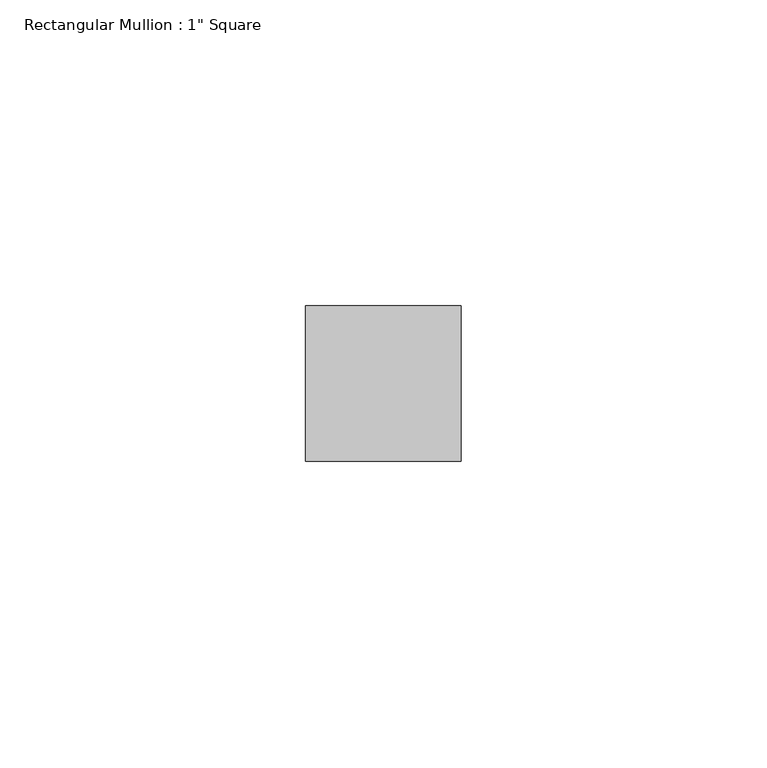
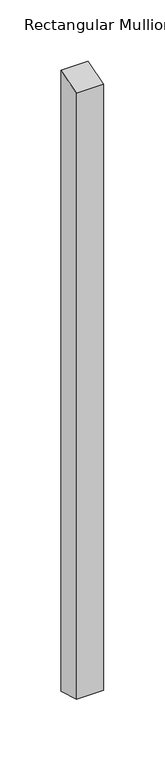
"""IFC4 building model written with IfcOpenShell, lengths in millimetres: member geometry."""

from ifc_helpers import new_model, si_unit, origin, place, context, project, spatial, faceted_brep, source, transform, mapped, element, save


def member_649bdf5e(model_context):
    return source(origin(), model_context, "Body", "Brep", [
        faceted_brep([(-25.4, 12.7, 3.812649), (0.0, 12.7, 3.7080717), (0.0, 12.7, -613.3080717), (-25.4, 12.7, -613.412649), (-25.4, -12.7, -3.6034943), (-25.4, -12.7, -605.9965057), (0.0, -12.7, -3.7080717), (0.0, -12.7, -605.8919283)], [[[0, 1, 2, 3]], [[4, 0, 3, 5]], [[6, 4, 5, 7]], [[1, 6, 7, 2]], [[1, 0, 4, 6]], [[2, 7, 5, 3]]]),
    ])


if __name__ == "__main__":
    model = new_model("IFC4")
    model_context = context("Model", 3, world=origin())
    ifc_project = project(units=[si_unit("LENGTHUNIT", "METRE", prefix="MILLI")], contexts=[model_context])
    site = spatial("IfcSite", under=ifc_project)
    building = spatial("IfcBuilding", under=site)
    placement = place(None, origin())
    member_shape = member_649bdf5e(model_context)
    element("IfcMember", 1, ObjectType="Rectangular Mullion : 1\" Square", at=placement, inside=building, context=model_context, shape_type="MappedRepresentation", body=[
        mapped(member_shape, transform((0.0, 0.0, 0.0), x_axis=(1.0, 0.0, 0.0), y_axis=(0.0, 1.0, 0.0), z_axis=(0.0, 0.0, 1.0))),
    ])
    save(model, "model.ifc")
